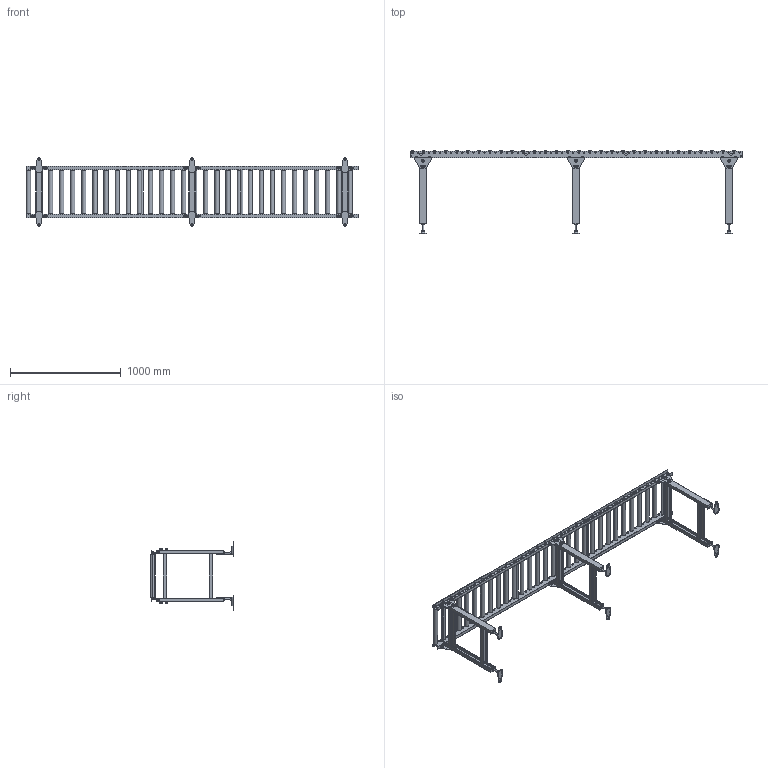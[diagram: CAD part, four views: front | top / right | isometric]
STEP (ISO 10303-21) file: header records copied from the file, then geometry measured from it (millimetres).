
FILE_DESCRIPTION (( 'STEP AP214' ), '1' );
FILE_NAME ('JR-3812-400-100-3000.STEP', '2024-03-19T08:39:57', ( '' ), ( '' ), 'SwSTEP 2.0', 'SolidWorks 2017', '' );
FILE_SCHEMA (( 'AUTOMOTIVE_DESIGN' ));
Length unit declared in the file: millimetre
Products named in the file (1): JR-3812-400-100-3000
Bounding box: 2994 x 749.95 x 614 mm (x, y, z)
Volume: 18128797.3 mm3; surface area: 4877619.6 mm2
Topology: 16 solids, 16 shells, 2498 faces, 6156 edges, 3976 vertices
Faces by surface type: plane 1504, cylinder 970, cone 12, bspline 12
Entity records: 76319 total; most frequent: CARTESIAN_POINT 14305, DIRECTION 13388, ORIENTED_EDGE 12312, EDGE_CURVE 6156, AXIS2_PLACEMENT_3D 4799, VERTEX_POINT 3976, LINE 3790, VECTOR 3790
